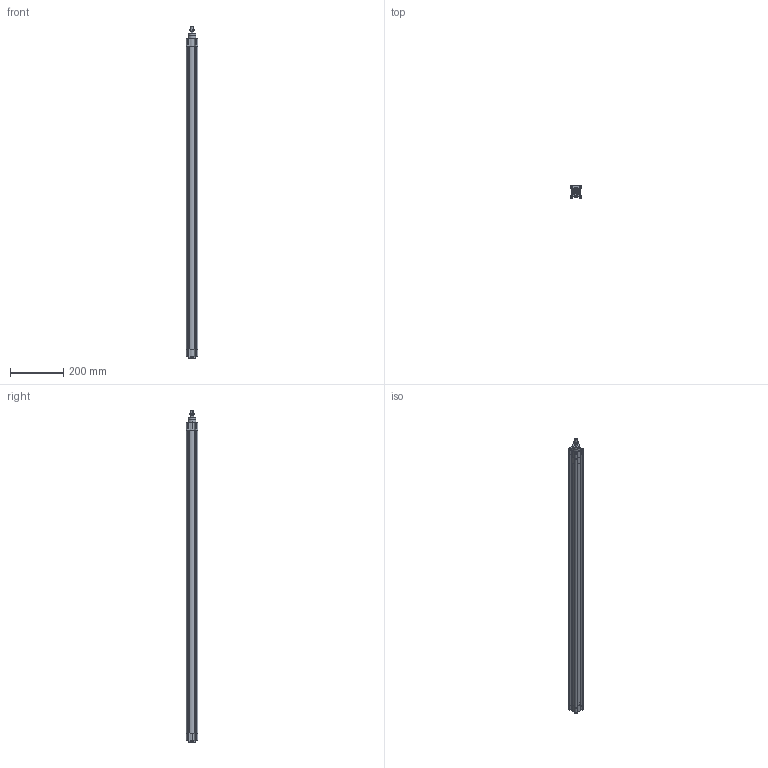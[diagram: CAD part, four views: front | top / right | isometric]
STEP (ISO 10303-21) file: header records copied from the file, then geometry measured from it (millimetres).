
FILE_DESCRIPTION (( 'STEP AP203' ), '1' );
FILE_NAME ('CPME32-1100.STEP', '2023-06-13T19:16:37', ( '' ), ( '' ), 'SwSTEP 2.0', 'SolidWorks 2019', '' );
FILE_SCHEMA (( 'CONFIG_CONTROL_DESIGN' ));
Length unit declared in the file: millimetre
Products named in the file (1): CPME32-1100
Bounding box: 45 x 45 x 1245.1 mm (x, y, z)
Volume: 1014940.9 mm3; surface area: 436721 mm2
Topology: 3 solids, 3 shells, 633 faces, 1637 edges, 1038 vertices
Faces by surface type: plane 327, cylinder 192, cone 106, torus 8
Entity records: 19692 total; most frequent: CARTESIAN_POINT 4284, ORIENTED_EDGE 3242, DIRECTION 3141, EDGE_CURVE 1621, AXIS2_PLACEMENT_3D 1109, VERTEX_POINT 1038, LINE 923, VECTOR 923
